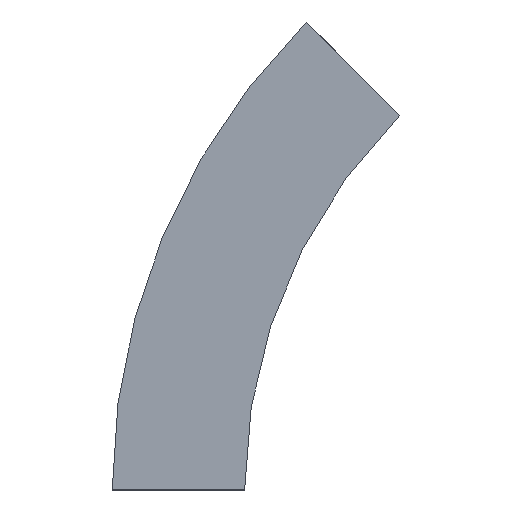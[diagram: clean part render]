
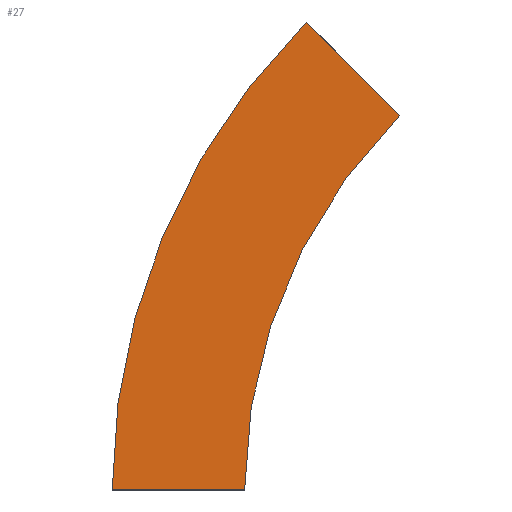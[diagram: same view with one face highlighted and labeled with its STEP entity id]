
A CAD part, left-side view. The second image highlights one B-rep face of the part: STEP entity #27.
In plain terms, the highlighted planar face has unit normal (-1, 0, 0) as drawn and (1, 0, 0) by its records, which use the part's own axes.
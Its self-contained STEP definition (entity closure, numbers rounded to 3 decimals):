
#1 = CIRCLE ( 'NONE', #31, 300. ) ;
#13 = VERTEX_POINT ( 'NONE', #269 ) ;
#25 = CARTESIAN_POINT ( 'NONE',  ( 0., 0., 0. ) ) ;
#27 = ADVANCED_FACE ( 'NONE', ( #306 ), #249, .T. ) ;
#29 = CARTESIAN_POINT ( 'NONE',  ( 0., 0., 0. ) ) ;
#31 = AXIS2_PLACEMENT_3D ( 'NONE', #297, #295, #36 ) ;
#36 = DIRECTION ( 'NONE',  ( 0., 1., 0. ) ) ;
#40 = EDGE_CURVE ( 'NONE', #492, #365, #75, .T. ) ;
#42 = CARTESIAN_POINT ( 'NONE',  ( 0., -87.868, 212.132 ) ) ;
#75 = CIRCLE ( 'NONE', #523, 375. ) ;
#83 = EDGE_CURVE ( 'NONE', #13, #365, #273, .T. ) ;
#89 = DIRECTION ( 'NONE',  ( 0., 0.707, 0.707 ) ) ;
#117 = VECTOR ( 'NONE', #545, 1000. ) ;
#154 = DIRECTION ( 'NONE',  ( 1., 0., 0. ) ) ;
#156 = LINE ( 'NONE', #204, #117 ) ;
#174 = ORIENTED_EDGE ( 'NONE', *, *, #83, .F. ) ;
#200 = EDGE_CURVE ( 'NONE', #418, #492, #156, .T. ) ;
#204 = CARTESIAN_POINT ( 'NONE',  ( 0., 0., 0. ) ) ;
#211 = CARTESIAN_POINT ( 'NONE',  ( 0., -300., 0. ) ) ;
#232 = ORIENTED_EDGE ( 'NONE', *, *, #40, .T. ) ;
#240 = CARTESIAN_POINT ( 'NONE',  ( 0., 75., 0. ) ) ;
#249 = PLANE ( 'NONE',  #461 ) ;
#251 = ORIENTED_EDGE ( 'NONE', *, *, #200, .T. ) ;
#269 = CARTESIAN_POINT ( 'NONE',  ( 0., -87.868, 212.132 ) ) ;
#273 = LINE ( 'NONE', #42, #344 ) ;
#295 = DIRECTION ( 'NONE',  ( 1., 0., 0. ) ) ;
#297 = CARTESIAN_POINT ( 'NONE',  ( 0., -300., 0. ) ) ;
#302 = CARTESIAN_POINT ( 'NONE',  ( 0., -34.835, 265.165 ) ) ;
#305 = EDGE_CURVE ( 'NONE', #418, #13, #1, .T. ) ;
#306 = FACE_OUTER_BOUND ( 'NONE', #490, .T. ) ;
#328 = DIRECTION ( 'NONE',  ( 0., 1., 0. ) ) ;
#344 = VECTOR ( 'NONE', #89, 1000. ) ;
#365 = VERTEX_POINT ( 'NONE', #302 ) ;
#368 = DIRECTION ( 'NONE',  ( 1., 0., 0. ) ) ;
#418 = VERTEX_POINT ( 'NONE', #29 ) ;
#461 = AXIS2_PLACEMENT_3D ( 'NONE', #25, #154, #497 ) ;
#490 = EDGE_LOOP ( 'NONE', ( #232, #174, #558, #251 ) ) ;
#492 = VERTEX_POINT ( 'NONE', #240 ) ;
#497 = DIRECTION ( 'NONE',  ( 0., 0., -1. ) ) ;
#523 = AXIS2_PLACEMENT_3D ( 'NONE', #211, #368, #328 ) ;
#545 = DIRECTION ( 'NONE',  ( 0., 1., 0. ) ) ;
#558 = ORIENTED_EDGE ( 'NONE', *, *, #305, .F. ) ;
